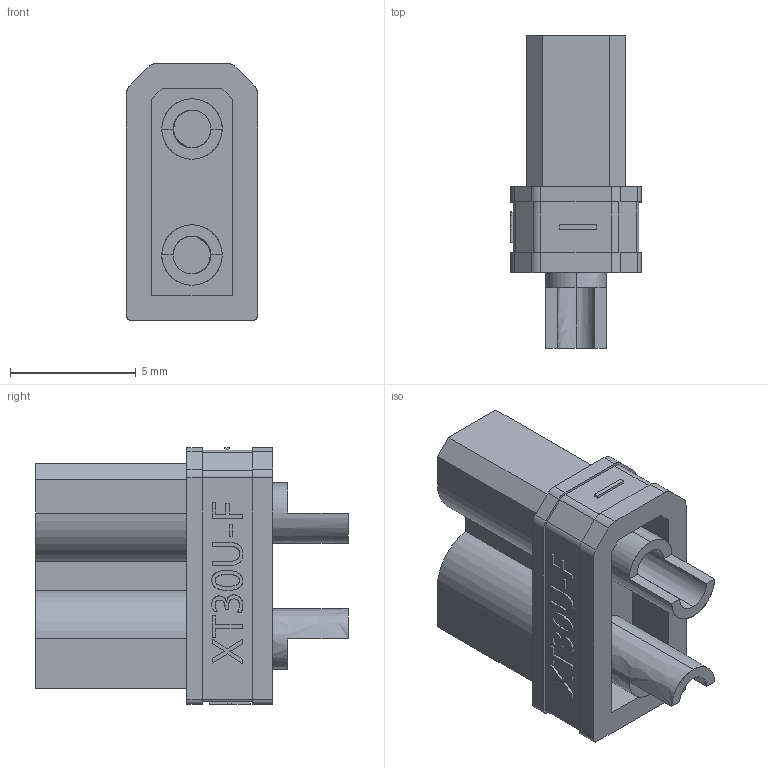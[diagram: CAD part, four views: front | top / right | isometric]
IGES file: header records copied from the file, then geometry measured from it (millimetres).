
Start section: SolidWorks IGES file using analytic representation for surfaces
Global section: file name: C:\Users\Administrator\Desktop\eRob 蟀諉ん\XT30U-F(DC48V).IGS,15; native system: HSolidWorks 2016; preprocessor: SolidWorks 2016; author: Administrator; date: 220221.155154; units: millimetre
Bounding box: 5.2 x 12.4 x 10.2 mm (x, y, z)
Surface area: 607.3 mm2 (no closed solid volume)
Topology: 0 solids, 0 shells, 192 faces, 1762 edges, 1762 vertices
Faces by surface type: bspline 154, revolution 38
